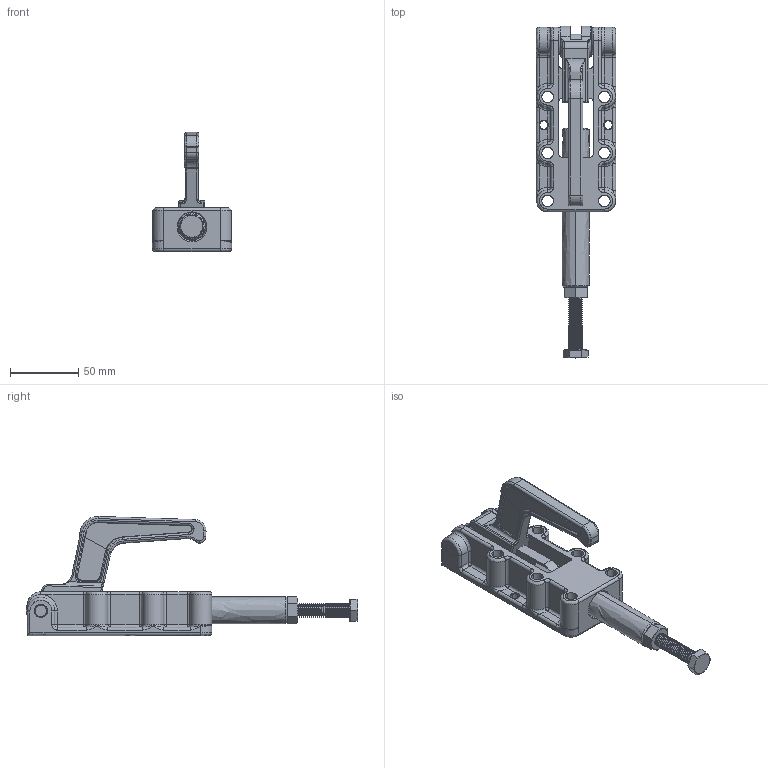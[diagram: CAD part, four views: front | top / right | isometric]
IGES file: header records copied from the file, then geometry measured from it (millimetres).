
Start section: 3D InterOp IGES (Version 17 0 1), Spatial Corp. Copyright (c) 1999-2007.
Global section: file name: NoName; native system: Spatial Corp.; preprocessor: 3D InterOp ACIS/IGES; author: Noname; organization: Noname; date: 20120123.141924; units: millimetre
Bounding box: 58 x 242.75 x 87.11 mm (x, y, z)
Volume: 199819.3 mm3; surface area: 83295.2 mm2
Topology: 10 solids, 10 shells, 1285 faces, 4620 edges, 3313 vertices
Faces by surface type: bspline 1285
